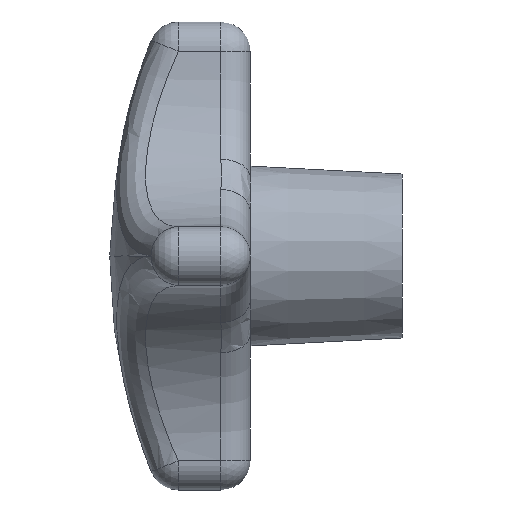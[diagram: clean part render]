
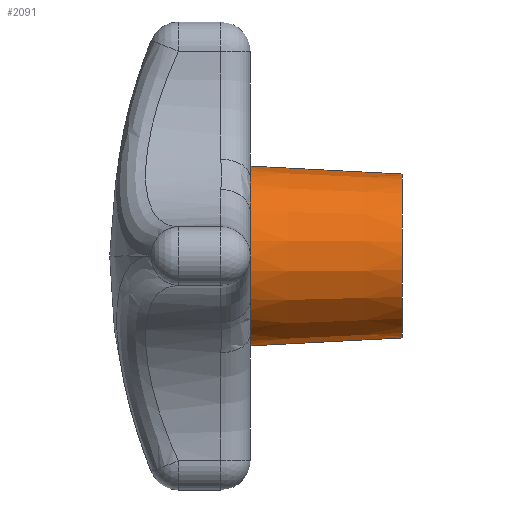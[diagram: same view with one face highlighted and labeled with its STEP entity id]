
A CAD part, left-side view. The second image highlights one B-rep face of the part: STEP entity #2091.
In plain terms, the highlighted conical face has half-angle 3 degrees and reference radius 7 mm.
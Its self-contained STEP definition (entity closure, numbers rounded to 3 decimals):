
#477 = EDGE_CURVE ( 'NONE', #761, #482, #961, .T. ) ;
#482 = VERTEX_POINT ( 'NONE', #957 ) ;
#744 = VERTEX_POINT ( 'NONE', #3297 ) ;
#750 = EDGE_CURVE ( 'NONE', #764, #744, #3290, .T. ) ;
#754 = EDGE_CURVE ( 'NONE', #755, #482, #3282, .T. ) ;
#755 = VERTEX_POINT ( 'NONE', #3337 ) ;
#757 = EDGE_CURVE ( 'NONE', #762, #764, #3336, .T. ) ;
#761 = VERTEX_POINT ( 'NONE', #3325 ) ;
#762 = VERTEX_POINT ( 'NONE', #3324 ) ;
#764 = VERTEX_POINT ( 'NONE', #3323 ) ;
#957 = CARTESIAN_POINT ( 'NONE',  ( 0., 0., 7.681 ) ) ;
#958 = DIRECTION ( 'NONE',  ( 0., 0.999, 0.052 ) ) ;
#959 = VECTOR ( 'NONE', #958, 1000. ) ;
#960 = CARTESIAN_POINT ( 'NONE',  ( 0., -13., 7. ) ) ;
#961 = LINE ( 'NONE', #960, #959 ) ;
#2030 = ORIENTED_EDGE ( 'NONE', *, *, #477, .T. ) ;
#2044 = EDGE_CURVE ( 'NONE', #2140, #755, #3414, .T. ) ;
#2058 = ORIENTED_EDGE ( 'NONE', *, *, #754, .F. ) ;
#2059 = ORIENTED_EDGE ( 'NONE', *, *, #2044, .F. ) ;
#2063 = ORIENTED_EDGE ( 'NONE', *, *, #757, .F. ) ;
#2069 = EDGE_LOOP ( 'NONE', ( #2063, #2073, #2030, #2058, #2059, #2227, #2226, #2221 ) ) ;
#2071 = EDGE_CURVE ( 'NONE', #762, #761, #3468, .T. ) ;
#2073 = ORIENTED_EDGE ( 'NONE', *, *, #2071, .T. ) ;
#2091 = ADVANCED_FACE ( 'NONE', ( #3463 ), #3462, .T. ) ;
#2092 = VERTEX_POINT ( 'NONE', #3460 ) ;
#2095 = EDGE_CURVE ( 'NONE', #2092, #2140, #3515, .T. ) ;
#2140 = VERTEX_POINT ( 'NONE', #3545 ) ;
#2218 = EDGE_CURVE ( 'NONE', #744, #2092, #3602, .T. ) ;
#2221 = ORIENTED_EDGE ( 'NONE', *, *, #750, .F. ) ;
#2226 = ORIENTED_EDGE ( 'NONE', *, *, #2218, .F. ) ;
#2227 = ORIENTED_EDGE ( 'NONE', *, *, #2095, .F. ) ;
#3277 = CARTESIAN_POINT ( 'NONE',  ( 0., 0., 0. ) ) ;
#3278 = AXIS2_PLACEMENT_3D ( 'NONE', #3277, #3339, #3338 ) ;
#3282 = CIRCLE ( 'NONE', #3278, 7.681 ) ;
#3286 = DIRECTION ( 'NONE',  ( 0., 0., 1. ) ) ;
#3287 = DIRECTION ( 'NONE',  ( 0., 1., 0. ) ) ;
#3288 = CARTESIAN_POINT ( 'NONE',  ( 0., 0., 0. ) ) ;
#3289 = AXIS2_PLACEMENT_3D ( 'NONE', #3288, #3287, #3286 ) ;
#3290 = CIRCLE ( 'NONE', #3289, 7.681 ) ;
#3297 = CARTESIAN_POINT ( 'NONE',  ( -3.71, 0., -6.726 ) ) ;
#3323 = CARTESIAN_POINT ( 'NONE',  ( 0., 0., -7.681 ) ) ;
#3324 = CARTESIAN_POINT ( 'NONE',  ( 0., -13., -7. ) ) ;
#3325 = CARTESIAN_POINT ( 'NONE',  ( 0., -13., 7. ) ) ;
#3333 = DIRECTION ( 'NONE',  ( 0., 0.999, -0.052 ) ) ;
#3334 = VECTOR ( 'NONE', #3333, 1000. ) ;
#3335 = CARTESIAN_POINT ( 'NONE',  ( 0., -13., -7. ) ) ;
#3336 = LINE ( 'NONE', #3335, #3334 ) ;
#3337 = CARTESIAN_POINT ( 'NONE',  ( -3.71, 0., 6.726 ) ) ;
#3338 = DIRECTION ( 'NONE',  ( 0., 0., 1. ) ) ;
#3339 = DIRECTION ( 'NONE',  ( 0., 1., 0. ) ) ;
#3411 = DIRECTION ( 'NONE',  ( 0., 0., 1. ) ) ;
#3412 = DIRECTION ( 'NONE',  ( 0., 1., 0. ) ) ;
#3413 = AXIS2_PLACEMENT_3D ( 'NONE', #3446, #3412, #3411 ) ;
#3414 = CIRCLE ( 'NONE', #3413, 7.681 ) ;
#3446 = CARTESIAN_POINT ( 'NONE',  ( 0., 0., 0. ) ) ;
#3457 = DIRECTION ( 'NONE',  ( 0., 0., 1. ) ) ;
#3458 = DIRECTION ( 'NONE',  ( 0., 1., 0. ) ) ;
#3459 = AXIS2_PLACEMENT_3D ( 'NONE', #3461, #3458, #3457 ) ;
#3460 = CARTESIAN_POINT ( 'NONE',  ( -6.726, 0., -3.71 ) ) ;
#3461 = CARTESIAN_POINT ( 'NONE',  ( 0., -13., 0. ) ) ;
#3462 = CONICAL_SURFACE ( 'NONE', #3459, 7., 0.052 ) ;
#3463 = FACE_OUTER_BOUND ( 'NONE', #2069, .T. ) ;
#3464 = DIRECTION ( 'NONE',  ( 0., 0., 1. ) ) ;
#3465 = DIRECTION ( 'NONE',  ( 0., 1., 0. ) ) ;
#3466 = CARTESIAN_POINT ( 'NONE',  ( 0., -13., 0. ) ) ;
#3467 = AXIS2_PLACEMENT_3D ( 'NONE', #3466, #3465, #3464 ) ;
#3468 = CIRCLE ( 'NONE', #3467, 7. ) ;
#3511 = DIRECTION ( 'NONE',  ( 0., 0., 1. ) ) ;
#3512 = DIRECTION ( 'NONE',  ( 0., 1., 0. ) ) ;
#3513 = CARTESIAN_POINT ( 'NONE',  ( 0., 0., 0. ) ) ;
#3514 = AXIS2_PLACEMENT_3D ( 'NONE', #3513, #3512, #3511 ) ;
#3515 = CIRCLE ( 'NONE', #3514, 7.681 ) ;
#3545 = CARTESIAN_POINT ( 'NONE',  ( -6.726, 0., 3.71 ) ) ;
#3594 = DIRECTION ( 'NONE',  ( 0., 0., 1. ) ) ;
#3595 = DIRECTION ( 'NONE',  ( 0., 1., 0. ) ) ;
#3596 = CARTESIAN_POINT ( 'NONE',  ( 0., 0., 0. ) ) ;
#3597 = AXIS2_PLACEMENT_3D ( 'NONE', #3596, #3595, #3594 ) ;
#3602 = CIRCLE ( 'NONE', #3597, 7.681 ) ;
